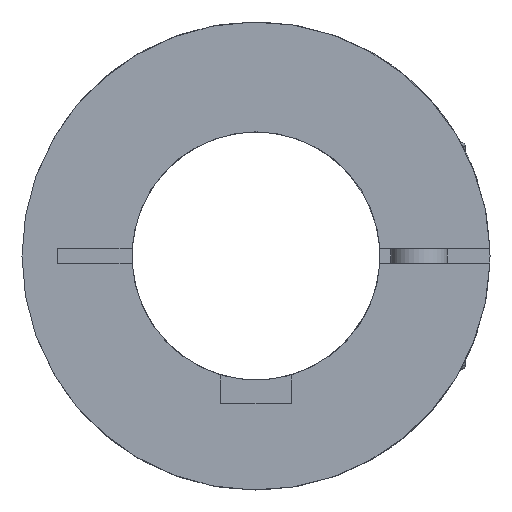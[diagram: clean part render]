
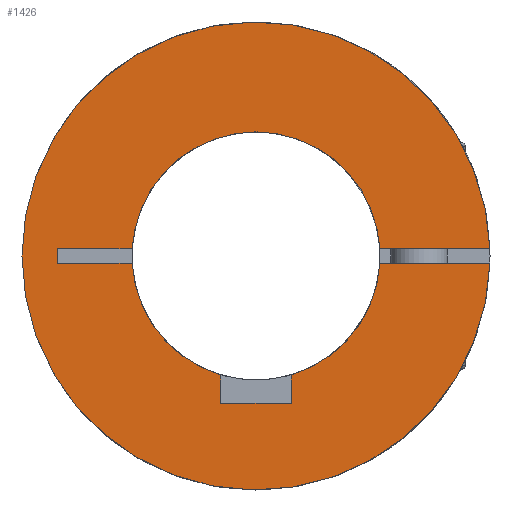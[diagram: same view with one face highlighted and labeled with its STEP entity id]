
A CAD part, left-side view. The second image highlights one B-rep face of the part: STEP entity #1426.
In plain terms, the highlighted planar face has unit normal (-1, 0, 0).
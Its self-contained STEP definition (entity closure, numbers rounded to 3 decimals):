
#41=PLANE('',#1612);
#137=LINE('',#2508,#246);
#140=LINE('',#2514,#249);
#141=LINE('',#2516,#250);
#152=LINE('',#2535,#261);
#155=LINE('',#2542,#264);
#167=LINE('',#2565,#276);
#168=LINE('',#2568,#277);
#176=LINE('',#2587,#285);
#246=VECTOR('',#1901,1.);
#249=VECTOR('',#1906,1.);
#250=VECTOR('',#1909,1.);
#261=VECTOR('',#1928,27.069);
#264=VECTOR('',#1937,27.069);
#276=VECTOR('',#1961,22.084);
#277=VECTOR('',#1964,22.084);
#285=VECTOR('',#1992,2.);
#389=FACE_OUTER_BOUND('',#484,.T.);
#484=EDGE_LOOP('',(#1234,#1235,#1236,#1237,#1238,#1239,#1240,#1241,#1242,
#1243,#1244,#1245));
#579=CIRCLE('',#1545,33.);
#604=CIRCLE('',#1580,17.5);
#606=CIRCLE('',#1582,17.5);
#607=CIRCLE('',#1584,17.5);
#659=VERTEX_POINT('',#2295);
#660=VERTEX_POINT('',#2297);
#701=VERTEX_POINT('',#2480);
#702=VERTEX_POINT('',#2482);
#705=VERTEX_POINT('',#2488);
#706=VERTEX_POINT('',#2490);
#707=VERTEX_POINT('',#2494);
#708=VERTEX_POINT('',#2495);
#712=VERTEX_POINT('',#2506);
#714=VERTEX_POINT('',#2512);
#724=VERTEX_POINT('',#2563);
#725=VERTEX_POINT('',#2567);
#816=EDGE_CURVE('',#660,#659,#579,.T.);
#866=EDGE_CURVE('',#702,#701,#604,.T.);
#870=EDGE_CURVE('',#706,#705,#606,.T.);
#872=EDGE_CURVE('',#707,#708,#607,.T.);
#879=EDGE_CURVE('',#705,#712,#137,.T.);
#882=EDGE_CURVE('',#712,#714,#140,.T.);
#883=EDGE_CURVE('',#714,#702,#141,.T.);
#894=EDGE_CURVE('',#708,#660,#152,.T.);
#897=EDGE_CURVE('',#659,#706,#155,.T.);
#909=EDGE_CURVE('',#724,#701,#167,.T.);
#910=EDGE_CURVE('',#725,#707,#168,.T.);
#918=EDGE_CURVE('',#725,#724,#176,.T.);
#1234=ORIENTED_EDGE('',*,*,#872,.T.);
#1235=ORIENTED_EDGE('',*,*,#894,.T.);
#1236=ORIENTED_EDGE('',*,*,#816,.T.);
#1237=ORIENTED_EDGE('',*,*,#897,.T.);
#1238=ORIENTED_EDGE('',*,*,#870,.T.);
#1239=ORIENTED_EDGE('',*,*,#879,.T.);
#1240=ORIENTED_EDGE('',*,*,#882,.T.);
#1241=ORIENTED_EDGE('',*,*,#883,.T.);
#1242=ORIENTED_EDGE('',*,*,#866,.T.);
#1243=ORIENTED_EDGE('',*,*,#909,.F.);
#1244=ORIENTED_EDGE('',*,*,#918,.F.);
#1245=ORIENTED_EDGE('',*,*,#910,.T.);
#1426=ADVANCED_FACE('',(#389),#41,.T.);
#1545=AXIS2_PLACEMENT_3D('',#2298,#1789,#1790);
#1580=AXIS2_PLACEMENT_3D('',#2483,#1879,#1880);
#1582=AXIS2_PLACEMENT_3D('',#2491,#1885,#1886);
#1584=AXIS2_PLACEMENT_3D('',#2496,#1890,#1891);
#1612=AXIS2_PLACEMENT_3D('',#2586,#1990,#1991);
#1789=DIRECTION('center_axis',(-1.,0.,0.));
#1790=DIRECTION('ref_axis',(0.,1.,0.));
#1879=DIRECTION('center_axis',(1.,0.,0.));
#1880=DIRECTION('ref_axis',(0.,0.,-1.));
#1885=DIRECTION('center_axis',(1.,0.,0.));
#1886=DIRECTION('ref_axis',(0.,0.,-1.));
#1890=DIRECTION('center_axis',(1.,0.,0.));
#1891=DIRECTION('ref_axis',(0.,0.,-1.));
#1901=DIRECTION('',(0.,0.,-1.));
#1906=DIRECTION('',(0.,1.,0.));
#1909=DIRECTION('',(0.,0.,1.));
#1928=DIRECTION('',(0.,-1.,0.));
#1937=DIRECTION('',(0.,1.,0.));
#1961=DIRECTION('',(0.,-1.,0.));
#1964=DIRECTION('',(0.,-1.,0.));
#1990=DIRECTION('center_axis',(-1.,0.,0.));
#1991=DIRECTION('ref_axis',(0.,-1.,0.));
#1992=DIRECTION('',(0.,0.,-1.));
#2295=CARTESIAN_POINT('',(0.,-32.985,-1.));
#2297=CARTESIAN_POINT('',(0.,-32.985,1.));
#2298=CARTESIAN_POINT('Origin',(0.,0.,0.));
#2480=CARTESIAN_POINT('',(0.,17.471,-1.));
#2482=CARTESIAN_POINT('',(0.,5.,-16.771));
#2483=CARTESIAN_POINT('Origin',(0.,0.,0.));
#2488=CARTESIAN_POINT('',(0.,-5.,-16.771));
#2490=CARTESIAN_POINT('',(0.,-17.471,-1.));
#2491=CARTESIAN_POINT('Origin',(0.,0.,0.));
#2494=CARTESIAN_POINT('',(0.,17.471,1.));
#2495=CARTESIAN_POINT('',(0.,-17.471,1.));
#2496=CARTESIAN_POINT('Origin',(0.,0.,0.));
#2506=CARTESIAN_POINT('',(0.,-5.,-20.8));
#2508=CARTESIAN_POINT('',(0.,-5.,-8.2));
#2512=CARTESIAN_POINT('',(0.,5.,-20.8));
#2514=CARTESIAN_POINT('',(0.,0.,-20.8));
#2516=CARTESIAN_POINT('',(0.,5.,-8.2));
#2535=CARTESIAN_POINT('',(0.,-5.916,1.));
#2542=CARTESIAN_POINT('',(0.,-32.985,-1.));
#2563=CARTESIAN_POINT('',(0.,28.,-1.));
#2565=CARTESIAN_POINT('',(0.,28.,-1.));
#2567=CARTESIAN_POINT('',(0.,28.,1.));
#2568=CARTESIAN_POINT('',(0.,28.,1.));
#2586=CARTESIAN_POINT('Origin',(0.,0.,-6.));
#2587=CARTESIAN_POINT('',(0.,28.,1.));
